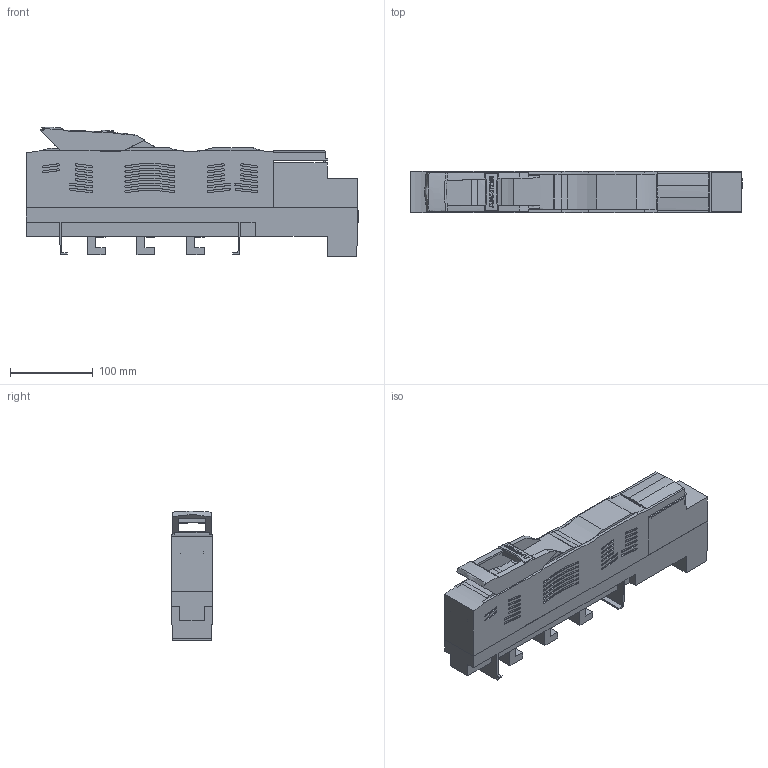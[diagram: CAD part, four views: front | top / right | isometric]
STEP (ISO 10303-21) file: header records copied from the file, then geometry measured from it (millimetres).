
FILE_DESCRIPTION(/* description */ (''),/* implementation_level */ '2;1');
FILE_NAME(/* name */ 'ARS 00 60 T.stp',/* time_stamp */ '2019-06-06T12:12:04+02:00',/* author */ (''),/* organization */ (''),/* preprocessor_version */ 'ST-DEVELOPER v16',/* originating_system */ 'SIEMENS PLM Software NX 10.0',/* authorisation */ '');
FILE_SCHEMA (('AUTOMOTIVE_DESIGN { 1 0 10303 214 3 1 1 1 }'));
Products named in the file (1): 710_26C4092Co6hb
Bounding box: 401.9 x 49.8 x 157.03 mm (x, y, z)
Volume: 1758923 mm3; surface area: 206556.8 mm2
Topology: 1 solids, 16 shells, 889 faces, 2322 edges, 1537 vertices
Faces by surface type: plane 435, bspline 377, extrusion 39, cylinder 34, sphere 4
Full cylindrical faces by diameter (mm): 6 x3
Entity records: 69146 total; most frequent: CARTESIAN_POINT 50736, ORIENTED_EDGE 4634, EDGE_CURVE 2317, DIRECTION 2231, VERTEX_POINT 1536, B_SPLINE_CURVE_WITH_KNOTS 1186, VECTOR 1121, LINE 1082
